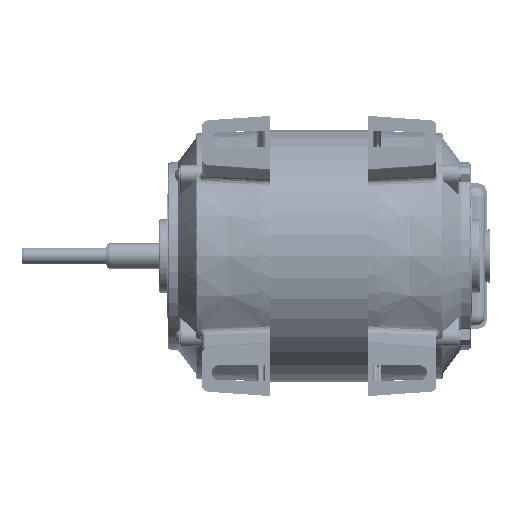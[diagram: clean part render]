
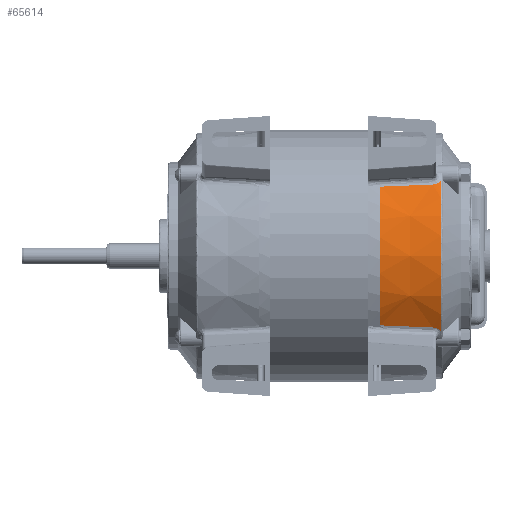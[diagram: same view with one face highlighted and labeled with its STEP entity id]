
A CAD part, front view. The second image highlights one B-rep face of the part: STEP entity #65614.
In plain terms, the highlighted conical face has half-angle 2 degrees and reference radius 58.483 mm.
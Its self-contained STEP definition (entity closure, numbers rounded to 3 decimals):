
#3537 = ORIENTED_EDGE ( 'NONE', *, *, #91200, .F. ) ;
#4677 = B_SPLINE_CURVE_WITH_KNOTS ( 'NONE', 3,
 ( #80688, #91593, #34925, #36371 ),
 .UNSPECIFIED., .F., .F.,
 ( 4, 4 ),
 ( 0., 1. ),
 .UNSPECIFIED. ) ;
#5875 = FACE_OUTER_BOUND ( 'NONE', #105481, .T. ) ;
#6188 = CARTESIAN_POINT ( 'NONE',  ( 5.193, 52.18, 71.102 ) ) ;
#7303 = CARTESIAN_POINT ( 'NONE',  ( -22.809, 40.845, 94.248 ) ) ;
#7368 = B_SPLINE_CURVE_WITH_KNOTS ( 'NONE', 3,
 ( #48452, #14300, #104367, #138488 ),
 .UNSPECIFIED., .F., .F.,
 ( 4, 4 ),
 ( 0., 1. ),
 .UNSPECIFIED. ) ;
#8021 = CARTESIAN_POINT ( 'NONE',  ( -22.809, 41.483, 91.397 ) ) ;
#14300 = CARTESIAN_POINT ( 'NONE',  ( 2.678, 51.555, 71.814 ) ) ;
#14302 = CARTESIAN_POINT ( 'NONE',  ( 5.953, 52.672, 70.488 ) ) ;
#14672 = CARTESIAN_POINT ( 'NONE',  ( 2.821, 51.565, 139.869 ) ) ;
#15905 = CARTESIAN_POINT ( 'NONE',  ( -22.809, 49.757, 138.823 ) ) ;
#17300 = CARTESIAN_POINT ( 'NONE',  ( 2.393, 51.535, 139.851 ) ) ;
#18243 = CARTESIAN_POINT ( 'NONE',  ( 4.589, 51.913, 140.248 ) ) ;
#18974 = CARTESIAN_POINT ( 'NONE',  ( -22.809, 44.22, 83.093 ) ) ;
#21101 = CARTESIAN_POINT ( 'NONE',  ( -22.809, 40.845, 117.43 ) ) ;
#25791 = B_SPLINE_CURVE_WITH_KNOTS ( 'NONE', 3,
 ( #58345, #96765, #117789, #50989, #64798, #18243, #97476, #62649, #106894, #108368 ),
 .UNSPECIFIED., .F., .F.,
 ( 4, 2, 2, 2, 4 ),
 ( 0., 0.25, 0.5, 0.75, 1. ),
 .UNSPECIFIED. ) ;
#27706 = CARTESIAN_POINT ( 'NONE',  ( 2.393, 51.535, 139.851 ) ) ;
#29932 = VERTEX_POINT ( 'NONE', #50349 ) ;
#30199 = DIRECTION ( 'NONE',  ( 0., 1., 0. ) ) ;
#31068 = B_SPLINE_CURVE_WITH_KNOTS ( 'NONE', 3,
 ( #48139, #92444, #136751, #125844, #70656, #114952, #21101, #120641, #130118, #84399, #140327, #7303, #8021, #130840, #18974, #64080, #52445, #63374 ),
 .UNSPECIFIED., .F., .F.,
 ( 4, 2, 2, 2, 2, 2, 2, 2, 4 ),
 ( 0., 0.125, 0.25, 0.375, 0.5, 0.625, 0.75, 0.875, 1. ),
 .UNSPECIFIED. ) ;
#34815 = AXIS2_PLACEMENT_3D ( 'NONE', #96345, #85430, #30199 ) ;
#34925 = CARTESIAN_POINT ( 'NONE',  ( -14.326, 50.347, 72.504 ) ) ;
#36371 = CARTESIAN_POINT ( 'NONE',  ( -22.809, 49.757, 72.855 ) ) ;
#38245 = CARTESIAN_POINT ( 'NONE',  ( 5.048, 52.109, 71.189 ) ) ;
#39522 = EDGE_CURVE ( 'NONE', #128431, #63072, #31068, .T. ) ;
#40061 = CARTESIAN_POINT ( 'NONE',  ( 2.678, 51.555, 139.863 ) ) ;
#48139 = CARTESIAN_POINT ( 'NONE',  ( -22.809, 49.757, 138.823 ) ) ;
#48452 = CARTESIAN_POINT ( 'NONE',  ( 2.821, 51.565, 71.808 ) ) ;
#50349 = CARTESIAN_POINT ( 'NONE',  ( 2.393, 51.535, 71.826 ) ) ;
#50989 = CARTESIAN_POINT ( 'NONE',  ( 5.474, 52.326, 140.758 ) ) ;
#52445 = CARTESIAN_POINT ( 'NONE',  ( -22.809, 48.142, 75.279 ) ) ;
#54647 = VERTEX_POINT ( 'NONE', #56768 ) ;
#55923 = CONICAL_SURFACE ( 'NONE', #137126, 58.483, 0.035 ) ;
#56768 = CARTESIAN_POINT ( 'NONE',  ( 2.821, 51.565, 139.869 ) ) ;
#57094 = ORIENTED_EDGE ( 'NONE', *, *, #85990, .F. ) ;
#58345 = CARTESIAN_POINT ( 'NONE',  ( 6.31, 53.064, 141.679 ) ) ;
#59378 = CARTESIAN_POINT ( 'NONE',  ( 6.152, 52.86, 70.252 ) ) ;
#60176 = CARTESIAN_POINT ( 'NONE',  ( 6.31, 53.064, 141.679 ) ) ;
#62649 = CARTESIAN_POINT ( 'NONE',  ( 3.556, 51.646, 139.937 ) ) ;
#63072 = VERTEX_POINT ( 'NONE', #138347 ) ;
#63374 = CARTESIAN_POINT ( 'NONE',  ( -22.809, 49.757, 72.855 ) ) ;
#64080 = CARTESIAN_POINT ( 'NONE',  ( -22.809, 46.705, 77.823 ) ) ;
#64798 = CARTESIAN_POINT ( 'NONE',  ( 5.201, 52.175, 140.568 ) ) ;
#65614 = ADVANCED_FACE ( 'NONE', ( #5875 ), #55923, .T. ) ;
#68406 = ORIENTED_EDGE ( 'NONE', *, *, #126236, .T. ) ;
#69557 = CARTESIAN_POINT ( 'NONE',  ( 6.31, 53.064, 69.998 ) ) ;
#70656 = CARTESIAN_POINT ( 'NONE',  ( -22.809, 43.171, 125.857 ) ) ;
#71907 = ORIENTED_EDGE ( 'NONE', *, *, #39522, .T. ) ;
#75526 = EDGE_CURVE ( 'NONE', #143194, #54647, #100489, .T. ) ;
#80418 = ORIENTED_EDGE ( 'NONE', *, *, #101599, .T. ) ;
#80688 = CARTESIAN_POINT ( 'NONE',  ( 2.393, 51.535, 71.826 ) ) ;
#81503 = CARTESIAN_POINT ( 'NONE',  ( 2.536, 51.545, 139.857 ) ) ;
#81862 = CARTESIAN_POINT ( 'NONE',  ( 5.466, 52.332, 70.913 ) ) ;
#84399 = CARTESIAN_POINT ( 'NONE',  ( -22.809, 39.778, 102.925 ) ) ;
#85430 = DIRECTION ( 'NONE',  ( -1., 0., 0. ) ) ;
#85990 = EDGE_CURVE ( 'NONE', #127095, #29932, #7368, .T. ) ;
#86412 = B_SPLINE_CURVE_WITH_KNOTS ( 'NONE', 3,
 ( #105312, #128524, #138736, #95880, #135654, #38245, #6188, #81862, #91345, #14302, #59378, #69557 ),
 .UNSPECIFIED., .F., .F.,
 ( 4, 2, 2, 2, 2, 4 ),
 ( 0., 0.25, 0.5, 0.625, 0.75, 1. ),
 .UNSPECIFIED. ) ;
#87813 = B_SPLINE_CURVE_WITH_KNOTS ( 'NONE', 3,
 ( #15905, #137263, #92941, #17300 ),
 .UNSPECIFIED., .F., .F.,
 ( 4, 4 ),
 ( 0., 1. ),
 .UNSPECIFIED. ) ;
#88815 = CARTESIAN_POINT ( 'NONE',  ( -22.809, 49.757, 138.823 ) ) ;
#91200 = EDGE_CURVE ( 'NONE', #128431, #143194, #87813, .T. ) ;
#91345 = CARTESIAN_POINT ( 'NONE',  ( 5.595, 52.414, 70.811 ) ) ;
#91593 = CARTESIAN_POINT ( 'NONE',  ( -5.925, 50.939, 72.161 ) ) ;
#92444 = CARTESIAN_POINT ( 'NONE',  ( -22.809, 48.142, 136.398 ) ) ;
#92941 = CARTESIAN_POINT ( 'NONE',  ( -5.925, 50.939, 139.516 ) ) ;
#93168 = DIRECTION ( 'NONE',  ( -1., 0., 0. ) ) ;
#94436 = CARTESIAN_POINT ( 'NONE',  ( 6.31, 53.064, 69.998 ) ) ;
#95880 = CARTESIAN_POINT ( 'NONE',  ( 4.259, 51.808, 71.556 ) ) ;
#96345 = CARTESIAN_POINT ( 'NONE',  ( 6.31, 99.277, 105.839 ) ) ;
#96765 = CARTESIAN_POINT ( 'NONE',  ( 6.152, 52.86, 141.425 ) ) ;
#97476 = CARTESIAN_POINT ( 'NONE',  ( 4.26, 51.808, 140.121 ) ) ;
#97491 = CIRCLE ( 'NONE', #34815, 58.483 ) ;
#100489 = B_SPLINE_CURVE_WITH_KNOTS ( 'NONE', 3,
 ( #27706, #81503, #40061, #14672 ),
 .UNSPECIFIED., .F., .F.,
 ( 4, 4 ),
 ( 0., 1. ),
 .UNSPECIFIED. ) ;
#101599 = EDGE_CURVE ( 'NONE', #115163, #116669, #97491, .T. ) ;
#104367 = CARTESIAN_POINT ( 'NONE',  ( 2.536, 51.545, 71.82 ) ) ;
#105312 = CARTESIAN_POINT ( 'NONE',  ( 2.821, 51.565, 71.808 ) ) ;
#105465 = CARTESIAN_POINT ( 'NONE',  ( 6.31, 99.277, 105.839 ) ) ;
#105481 = EDGE_LOOP ( 'NONE', ( #71907, #139211, #57094, #68406, #80418, #136664, #139325, #3537 ) ) ;
#106095 = EDGE_CURVE ( 'NONE', #29932, #63072, #4677, .T. ) ;
#106894 = CARTESIAN_POINT ( 'NONE',  ( 3.194, 51.592, 139.884 ) ) ;
#108368 = CARTESIAN_POINT ( 'NONE',  ( 2.821, 51.565, 139.869 ) ) ;
#112178 = EDGE_CURVE ( 'NONE', #116669, #54647, #25791, .T. ) ;
#114952 = CARTESIAN_POINT ( 'NONE',  ( -22.809, 41.483, 120.28 ) ) ;
#115163 = VERTEX_POINT ( 'NONE', #94436 ) ;
#116669 = VERTEX_POINT ( 'NONE', #60176 ) ;
#117789 = CARTESIAN_POINT ( 'NONE',  ( 5.955, 52.673, 141.191 ) ) ;
#118562 = CARTESIAN_POINT ( 'NONE',  ( 2.821, 51.565, 71.808 ) ) ;
#120641 = CARTESIAN_POINT ( 'NONE',  ( -22.809, 39.992, 111.665 ) ) ;
#124839 = CARTESIAN_POINT ( 'NONE',  ( 2.393, 51.535, 139.851 ) ) ;
#125844 = CARTESIAN_POINT ( 'NONE',  ( -22.809, 44.22, 128.584 ) ) ;
#126236 = EDGE_CURVE ( 'NONE', #127095, #115163, #86412, .T. ) ;
#127095 = VERTEX_POINT ( 'NONE', #118562 ) ;
#128431 = VERTEX_POINT ( 'NONE', #88815 ) ;
#128524 = CARTESIAN_POINT ( 'NONE',  ( 3.194, 51.592, 71.793 ) ) ;
#130118 = CARTESIAN_POINT ( 'NONE',  ( -22.809, 39.778, 108.752 ) ) ;
#130840 = CARTESIAN_POINT ( 'NONE',  ( -22.809, 43.171, 85.82 ) ) ;
#135654 = CARTESIAN_POINT ( 'NONE',  ( 4.588, 51.913, 71.43 ) ) ;
#136664 = ORIENTED_EDGE ( 'NONE', *, *, #112178, .T. ) ;
#136751 = CARTESIAN_POINT ( 'NONE',  ( -22.809, 46.705, 133.854 ) ) ;
#137126 = AXIS2_PLACEMENT_3D ( 'NONE', #105465, #93168, #140331 ) ;
#137263 = CARTESIAN_POINT ( 'NONE',  ( -14.326, 50.347, 139.173 ) ) ;
#138347 = CARTESIAN_POINT ( 'NONE',  ( -22.809, 49.757, 72.855 ) ) ;
#138488 = CARTESIAN_POINT ( 'NONE',  ( 2.393, 51.535, 71.826 ) ) ;
#138736 = CARTESIAN_POINT ( 'NONE',  ( 3.556, 51.646, 71.74 ) ) ;
#139211 = ORIENTED_EDGE ( 'NONE', *, *, #106095, .F. ) ;
#139325 = ORIENTED_EDGE ( 'NONE', *, *, #75526, .F. ) ;
#140327 = CARTESIAN_POINT ( 'NONE',  ( -22.809, 39.992, 100.012 ) ) ;
#140331 = DIRECTION ( 'NONE',  ( 0., 0., 1. ) ) ;
#143194 = VERTEX_POINT ( 'NONE', #124839 ) ;
